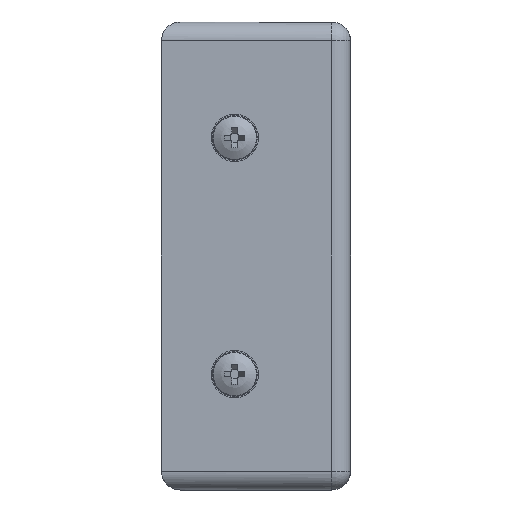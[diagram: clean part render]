
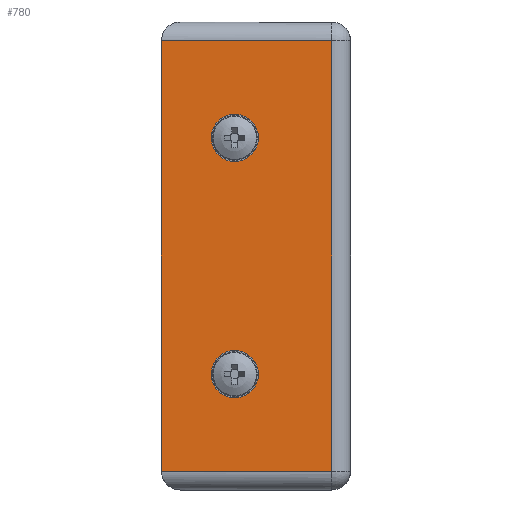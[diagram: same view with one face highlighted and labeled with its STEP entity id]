
A CAD part, front view. The second image highlights one B-rep face of the part: STEP entity #780.
In plain terms, the highlighted planar face has unit normal (0, -1, 0).
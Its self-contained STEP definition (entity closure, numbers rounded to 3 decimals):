
#780=ADVANCED_FACE('',(#1623,#1625,#1627),#1629,.T.);
#1623=FACE_BOUND('',#1624,.T.);
#1624=EDGE_LOOP('',(#4188,#4189,#4190,#4191));
#1625=FACE_BOUND('',#1626,.T.);
#1626=EDGE_LOOP('',(#4192));
#1627=FACE_BOUND('',#1628,.T.);
#1628=EDGE_LOOP('',(#4193));
#1629=PLANE('',#1630);
#1630=AXIS2_PLACEMENT_3D('',#1631,#1632,#1633);
#1631=CARTESIAN_POINT('',(-1.5,-103.5,49.5));
#1632=DIRECTION('',(0.,-1.,0.));
#1633=DIRECTION('',(0.,0.,-1.));
#4188=ORIENTED_EDGE('',*,*,#5063,.F.);
#4189=ORIENTED_EDGE('',*,*,#5153,.T.);
#4190=ORIENTED_EDGE('',*,*,#5154,.F.);
#4191=ORIENTED_EDGE('',*,*,#5155,.F.);
#4192=ORIENTED_EDGE('',*,*,#5156,.T.);
#4193=ORIENTED_EDGE('',*,*,#5157,.T.);
#5063=EDGE_CURVE('',#5793,#5794,#5795,.T.);
#5153=EDGE_CURVE('',#5793,#5901,#5902,.T.);
#5154=EDGE_CURVE('',#5903,#5901,#5904,.T.);
#5155=EDGE_CURVE('',#5794,#5903,#5905,.T.);
#5156=EDGE_CURVE('',#5906,#5906,#5907,.T.);
#5157=EDGE_CURVE('',#5908,#5908,#5909,.T.);
#5793=VERTEX_POINT('',#7076);
#5794=VERTEX_POINT('',#7077);
#5795=LINE('',#7078,#7079);
#5901=VERTEX_POINT('',#7380);
#5902=LINE('',#7381,#7382);
#5903=VERTEX_POINT('',#7384);
#5904=LINE('',#7385,#7386);
#5905=LINE('',#7388,#7389);
#5906=VERTEX_POINT('',#7391);
#5907=CIRCLE('',#7392,3.6);
#5908=VERTEX_POINT('',#7396);
#5909=CIRCLE('',#7397,3.6);
#7076=CARTESIAN_POINT('',(-4.,-103.5,45.5));
#7077=CARTESIAN_POINT('',(-4.,-103.5,-45.5));
#7078=CARTESIAN_POINT('',(-4.,-103.5,45.5));
#7079=VECTOR('',#7080,1.);
#7080=DIRECTION('',(0.,0.,-1.));
#7380=CARTESIAN_POINT('',(-40.,-103.5,45.5));
#7381=CARTESIAN_POINT('',(-4.,-103.5,45.5));
#7382=VECTOR('',#7383,1.);
#7383=DIRECTION('',(-1.,0.,0.));
#7384=CARTESIAN_POINT('',(-40.,-103.5,-45.5));
#7385=CARTESIAN_POINT('',(-40.,-103.5,-45.5));
#7386=VECTOR('',#7387,1.);
#7387=DIRECTION('',(0.,0.,1.));
#7388=CARTESIAN_POINT('',(-4.,-103.5,-45.5));
#7389=VECTOR('',#7390,1.);
#7390=DIRECTION('',(-1.,0.,0.));
#7391=CARTESIAN_POINT('',(-28.1,-103.5,25.));
#7392=AXIS2_PLACEMENT_3D('',#7393,#7394,#7395);
#7393=CARTESIAN_POINT('',(-24.5,-103.5,25.));
#7394=DIRECTION('',(0.,1.,0.));
#7395=DIRECTION('',(-1.,0.,0.));
#7396=CARTESIAN_POINT('',(-28.1,-103.5,-25.));
#7397=AXIS2_PLACEMENT_3D('',#7398,#7399,#7400);
#7398=CARTESIAN_POINT('',(-24.5,-103.5,-25.));
#7399=DIRECTION('',(0.,1.,0.));
#7400=DIRECTION('',(-1.,0.,0.));
